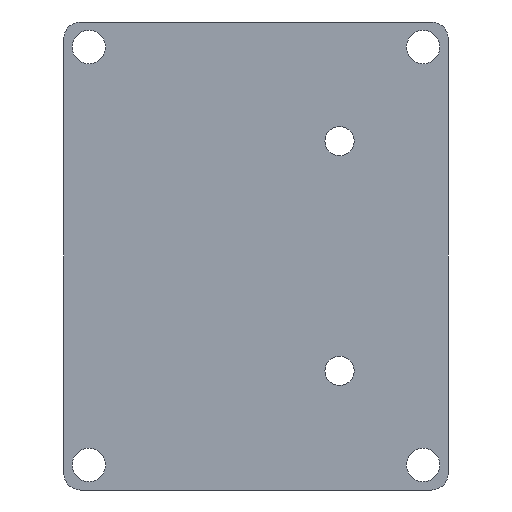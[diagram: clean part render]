
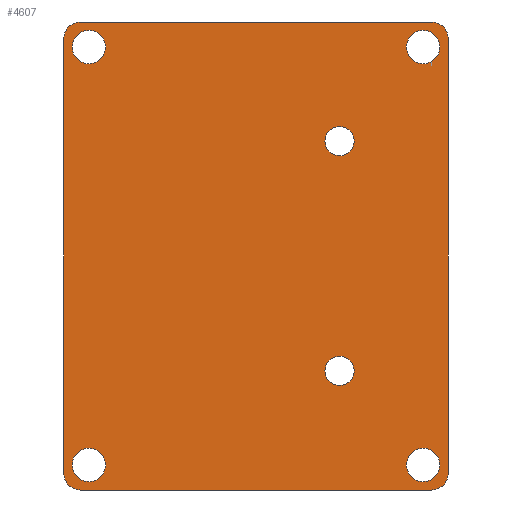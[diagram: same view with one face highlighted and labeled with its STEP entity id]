
A CAD part, front view. The second image highlights one B-rep face of the part: STEP entity #4607.
In plain terms, the highlighted planar face has unit normal (0, -1, 0).
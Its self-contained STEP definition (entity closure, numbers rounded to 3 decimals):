
#78=FACE_BOUND('',#894,.T.);
#79=FACE_BOUND('',#895,.T.);
#80=FACE_BOUND('',#896,.T.);
#81=FACE_BOUND('',#897,.T.);
#82=FACE_BOUND('',#898,.T.);
#83=FACE_BOUND('',#899,.T.);
#277=CIRCLE('',#5128,2.);
#278=CIRCLE('',#5130,2.);
#279=CIRCLE('',#5131,2.);
#280=CIRCLE('',#5132,2.);
#281=CIRCLE('',#5133,2.);
#282=CIRCLE('',#5134,2.);
#283=CIRCLE('',#5135,2.);
#284=CIRCLE('',#5136,2.);
#285=CIRCLE('',#5137,1.75);
#286=CIRCLE('',#5138,1.75);
#617=FACE_OUTER_BOUND('',#893,.T.);
#893=EDGE_LOOP('',(#4149,#4150,#4151,#4152,#4153,#4154,#4155,#4156));
#894=EDGE_LOOP('',(#4157));
#895=EDGE_LOOP('',(#4158));
#896=EDGE_LOOP('',(#4159));
#897=EDGE_LOOP('',(#4160));
#898=EDGE_LOOP('',(#4161));
#899=EDGE_LOOP('',(#4162));
#1342=LINE('',#7888,#1796);
#1355=LINE('',#7929,#1809);
#1359=LINE('',#7940,#1813);
#1360=LINE('',#7945,#1814);
#1796=VECTOR('',#6388,10.);
#1809=VECTOR('',#6427,10.);
#1813=VECTOR('',#6439,10.);
#1814=VECTOR('',#6444,10.);
#2226=VERTEX_POINT('',#7885);
#2227=VERTEX_POINT('',#7887);
#2241=VERTEX_POINT('',#7926);
#2242=VERTEX_POINT('',#7928);
#2244=VERTEX_POINT('',#7935);
#2245=VERTEX_POINT('',#7939);
#2246=VERTEX_POINT('',#7942);
#2247=VERTEX_POINT('',#7944);
#2248=VERTEX_POINT('',#7947);
#2249=VERTEX_POINT('',#7949);
#2250=VERTEX_POINT('',#7951);
#2251=VERTEX_POINT('',#7953);
#2252=VERTEX_POINT('',#7955);
#2253=VERTEX_POINT('',#7957);
#2862=EDGE_CURVE('',#2226,#2227,#1342,.T.);
#2883=EDGE_CURVE('',#2241,#2242,#1355,.T.);
#2888=EDGE_CURVE('',#2244,#2241,#277,.T.);
#2889=EDGE_CURVE('',#2245,#2244,#1359,.T.);
#2890=EDGE_CURVE('',#2227,#2245,#278,.T.);
#2891=EDGE_CURVE('',#2246,#2226,#279,.T.);
#2892=EDGE_CURVE('',#2247,#2246,#1360,.T.);
#2893=EDGE_CURVE('',#2242,#2247,#280,.T.);
#2894=EDGE_CURVE('',#2248,#2248,#281,.T.);
#2895=EDGE_CURVE('',#2249,#2249,#282,.T.);
#2896=EDGE_CURVE('',#2250,#2250,#283,.T.);
#2897=EDGE_CURVE('',#2251,#2251,#284,.T.);
#2898=EDGE_CURVE('',#2252,#2252,#285,.T.);
#2899=EDGE_CURVE('',#2253,#2253,#286,.T.);
#4149=ORIENTED_EDGE('',*,*,#2888,.F.);
#4150=ORIENTED_EDGE('',*,*,#2889,.F.);
#4151=ORIENTED_EDGE('',*,*,#2890,.F.);
#4152=ORIENTED_EDGE('',*,*,#2862,.F.);
#4153=ORIENTED_EDGE('',*,*,#2891,.F.);
#4154=ORIENTED_EDGE('',*,*,#2892,.F.);
#4155=ORIENTED_EDGE('',*,*,#2893,.F.);
#4156=ORIENTED_EDGE('',*,*,#2883,.F.);
#4157=ORIENTED_EDGE('',*,*,#2894,.F.);
#4158=ORIENTED_EDGE('',*,*,#2895,.F.);
#4159=ORIENTED_EDGE('',*,*,#2896,.F.);
#4160=ORIENTED_EDGE('',*,*,#2897,.F.);
#4161=ORIENTED_EDGE('',*,*,#2898,.F.);
#4162=ORIENTED_EDGE('',*,*,#2899,.F.);
#4367=PLANE('',#5129);
#4607=ADVANCED_FACE('',(#617,#78,#79,#80,#81,#82,#83),#4367,.F.);
#5128=AXIS2_PLACEMENT_3D('',#7937,#6435,#6436);
#5129=AXIS2_PLACEMENT_3D('',#7938,#6437,#6438);
#5130=AXIS2_PLACEMENT_3D('',#7941,#6440,#6441);
#5131=AXIS2_PLACEMENT_3D('',#7943,#6442,#6443);
#5132=AXIS2_PLACEMENT_3D('',#7946,#6445,#6446);
#5133=AXIS2_PLACEMENT_3D('',#7948,#6447,#6448);
#5134=AXIS2_PLACEMENT_3D('',#7950,#6449,#6450);
#5135=AXIS2_PLACEMENT_3D('',#7952,#6451,#6452);
#5136=AXIS2_PLACEMENT_3D('',#7954,#6453,#6454);
#5137=AXIS2_PLACEMENT_3D('',#7956,#6455,#6456);
#5138=AXIS2_PLACEMENT_3D('',#7958,#6457,#6458);
#6388=DIRECTION('',(-1.,0.,0.));
#6427=DIRECTION('',(1.,0.,0.));
#6435=DIRECTION('center_axis',(0.,1.,0.));
#6436=DIRECTION('ref_axis',(-0.707,0.,0.707));
#6437=DIRECTION('center_axis',(0.,1.,0.));
#6438=DIRECTION('ref_axis',(0.,0.,1.));
#6439=DIRECTION('',(0.,0.,1.));
#6440=DIRECTION('center_axis',(0.,1.,0.));
#6441=DIRECTION('ref_axis',(-0.707,0.,-0.707));
#6442=DIRECTION('center_axis',(0.,1.,0.));
#6443=DIRECTION('ref_axis',(0.707,0.,-0.707));
#6444=DIRECTION('',(0.,0.,-1.));
#6445=DIRECTION('center_axis',(0.,1.,0.));
#6446=DIRECTION('ref_axis',(0.707,0.,0.707));
#6447=DIRECTION('center_axis',(0.,-1.,0.));
#6448=DIRECTION('ref_axis',(1.,0.,0.));
#6449=DIRECTION('center_axis',(0.,-1.,0.));
#6450=DIRECTION('ref_axis',(1.,0.,0.));
#6451=DIRECTION('center_axis',(0.,-1.,0.));
#6452=DIRECTION('ref_axis',(1.,0.,0.));
#6453=DIRECTION('center_axis',(0.,-1.,0.));
#6454=DIRECTION('ref_axis',(1.,0.,0.));
#6455=DIRECTION('center_axis',(0.,-1.,0.));
#6456=DIRECTION('ref_axis',(1.,0.,0.));
#6457=DIRECTION('center_axis',(0.,-1.,0.));
#6458=DIRECTION('ref_axis',(1.,0.,0.));
#7885=CARTESIAN_POINT('',(34.5,0.,-28.));
#7887=CARTESIAN_POINT('',(-7.5,0.,-28.));
#7888=CARTESIAN_POINT('',(36.5,0.,-28.));
#7926=CARTESIAN_POINT('',(-7.5,0.,28.));
#7928=CARTESIAN_POINT('',(34.5,0.,28.));
#7929=CARTESIAN_POINT('',(-9.5,0.,28.));
#7935=CARTESIAN_POINT('',(-9.5,0.,26.));
#7937=CARTESIAN_POINT('Origin',(-7.5,0.,26.));
#7938=CARTESIAN_POINT('Origin',(13.5,0.,0.));
#7939=CARTESIAN_POINT('',(-9.5,0.,-26.));
#7940=CARTESIAN_POINT('',(-9.5,0.,-28.));
#7941=CARTESIAN_POINT('Origin',(-7.5,0.,-26.));
#7942=CARTESIAN_POINT('',(36.5,0.,-26.));
#7943=CARTESIAN_POINT('Origin',(34.5,0.,-26.));
#7944=CARTESIAN_POINT('',(36.5,0.,26.));
#7945=CARTESIAN_POINT('',(36.5,0.,28.));
#7946=CARTESIAN_POINT('Origin',(34.5,0.,26.));
#7947=CARTESIAN_POINT('',(-8.5,0.,-25.));
#7948=CARTESIAN_POINT('Origin',(-6.5,0.,-25.));
#7949=CARTESIAN_POINT('',(31.5,0.,-25.));
#7950=CARTESIAN_POINT('Origin',(33.5,0.,-25.));
#7951=CARTESIAN_POINT('',(-8.5,0.,25.));
#7952=CARTESIAN_POINT('Origin',(-6.5,0.,25.));
#7953=CARTESIAN_POINT('',(31.5,0.,25.));
#7954=CARTESIAN_POINT('Origin',(33.5,0.,25.));
#7955=CARTESIAN_POINT('',(21.75,0.,-13.75));
#7956=CARTESIAN_POINT('Origin',(23.5,0.,-13.75));
#7957=CARTESIAN_POINT('',(21.75,0.,13.75));
#7958=CARTESIAN_POINT('Origin',(23.5,0.,13.75));
